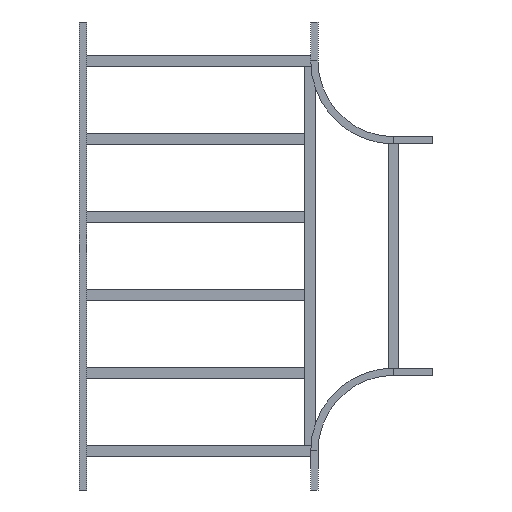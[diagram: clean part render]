
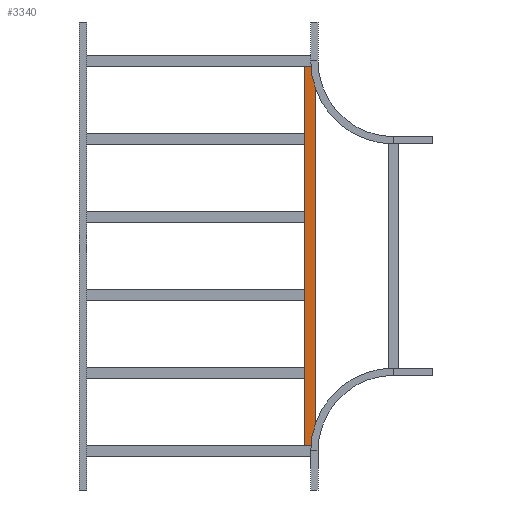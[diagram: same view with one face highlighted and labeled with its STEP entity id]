
A CAD part, front view. The second image highlights one B-rep face of the part: STEP entity #3340.
In plain terms, the highlighted planar face has unit normal (0, -1, 0).
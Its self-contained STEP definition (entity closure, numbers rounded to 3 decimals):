
#13 = AXIS2_PLACEMENT_3D ( 'NONE', #1117, #170, #3240 ) ;
#21 = CARTESIAN_POINT ( 'NONE',  ( 729.75, 0., 20.25 ) ) ;
#66 = CARTESIAN_POINT ( 'NONE',  ( 729.75, 0., -20.25 ) ) ;
#131 = VECTOR ( 'NONE', #3411, 1000. ) ;
#170 = DIRECTION ( 'NONE',  ( 0., 1., 0. ) ) ;
#201 = EDGE_CURVE ( 'NONE', #465, #2286, #3552, .T. ) ;
#226 = CARTESIAN_POINT ( 'NONE',  ( -729.75, 0., 20.25 ) ) ;
#253 = ORIENTED_EDGE ( 'NONE', *, *, #201, .T. ) ;
#272 = DIRECTION ( 'NONE',  ( 0., 0., -1. ) ) ;
#426 = DIRECTION ( 'NONE',  ( 0., 0., -1. ) ) ;
#456 = VECTOR ( 'NONE', #2682, 1000. ) ;
#465 = VERTEX_POINT ( 'NONE', #3478 ) ;
#633 = EDGE_LOOP ( 'NONE', ( #253, #2692, #2881, #923 ) ) ;
#758 = CARTESIAN_POINT ( 'NONE',  ( 729.75, 0., 20.25 ) ) ;
#923 = ORIENTED_EDGE ( 'NONE', *, *, #2385, .T. ) ;
#1035 = LINE ( 'NONE', #758, #1765 ) ;
#1117 = CARTESIAN_POINT ( 'NONE',  ( 729.75, 0., 20.25 ) ) ;
#1437 = VECTOR ( 'NONE', #272, 1000. ) ;
#1765 = VECTOR ( 'NONE', #426, 1000. ) ;
#2025 = VERTEX_POINT ( 'NONE', #66 ) ;
#2030 = EDGE_CURVE ( 'NONE', #2025, #2286, #2067, .T. ) ;
#2067 = LINE ( 'NONE', #3430, #131 ) ;
#2286 = VERTEX_POINT ( 'NONE', #2636 ) ;
#2385 = EDGE_CURVE ( 'NONE', #4290, #465, #4100, .T. ) ;
#2636 = CARTESIAN_POINT ( 'NONE',  ( -729.75, 0., -20.25 ) ) ;
#2682 = DIRECTION ( 'NONE',  ( -1., 0., 0. ) ) ;
#2692 = ORIENTED_EDGE ( 'NONE', *, *, #2030, .F. ) ;
#2733 = FACE_OUTER_BOUND ( 'NONE', #633, .T. ) ;
#2881 = ORIENTED_EDGE ( 'NONE', *, *, #3641, .F. ) ;
#3240 = DIRECTION ( 'NONE',  ( 0., 0., 1. ) ) ;
#3340 = ADVANCED_FACE ( 'NONE', ( #2733 ), #4129, .F. ) ;
#3411 = DIRECTION ( 'NONE',  ( -1., 0., 0. ) ) ;
#3430 = CARTESIAN_POINT ( 'NONE',  ( 729.75, 0., -20.25 ) ) ;
#3478 = CARTESIAN_POINT ( 'NONE',  ( -729.75, 0., 20.25 ) ) ;
#3552 = LINE ( 'NONE', #226, #1437 ) ;
#3641 = EDGE_CURVE ( 'NONE', #4290, #2025, #1035, .T. ) ;
#4100 = LINE ( 'NONE', #21, #456 ) ;
#4129 = PLANE ( 'NONE',  #13 ) ;
#4290 = VERTEX_POINT ( 'NONE', #4323 ) ;
#4323 = CARTESIAN_POINT ( 'NONE',  ( 729.75, 0., 20.25 ) ) ;
